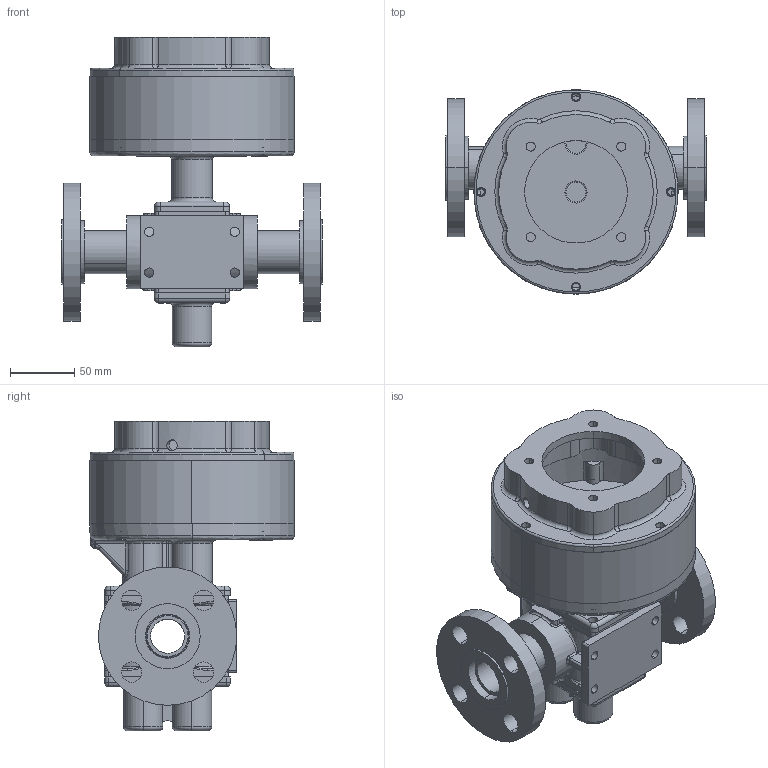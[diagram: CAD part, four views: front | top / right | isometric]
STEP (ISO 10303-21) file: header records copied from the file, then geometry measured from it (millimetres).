
FILE_DESCRIPTION (( 'STEP AP214' ), '1' );
FILE_NAME ('GMC8 FLNG IEC80 NO MOTOR.STEP', '2025-10-02T12:48:06', ( '' ), ( '' ), 'SwSTEP 2.0', 'SolidWorks 2024', '' );
FILE_SCHEMA (( 'AUTOMOTIVE_DESIGN' ));
Length unit declared in the file: inch
Products named in the file (1): GMC8 FLNG IEC80 NO MOTOR
Bounding box: 203.2 x 159.51 x 241.78 mm (x, y, z)
Volume: 1175889.9 mm3; surface area: 355245.9 mm2
Topology: 16 solids, 16 shells, 2041 faces, 5365 edges, 3447 vertices
Faces by surface type: plane 882, cylinder 505, bspline 396, torus 144, cone 85, sphere 29
Entity records: 82858 total; most frequent: CARTESIAN_POINT 34191, ORIENTED_EDGE 10698, DIRECTION 9021, EDGE_CURVE 5349, VERTEX_POINT 3447, AXIS2_PLACEMENT_3D 3029, VECTOR 2963, LINE 2963
